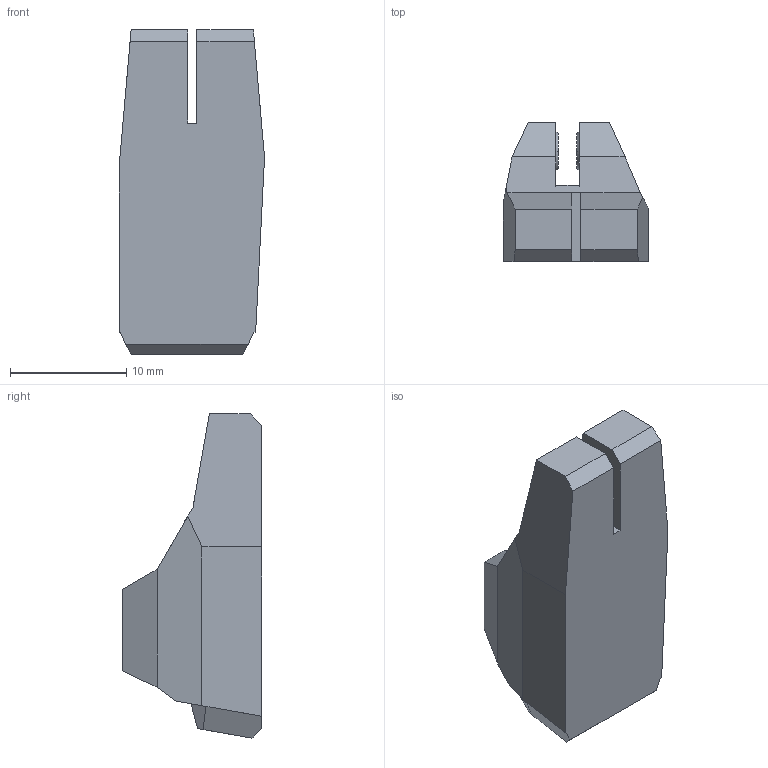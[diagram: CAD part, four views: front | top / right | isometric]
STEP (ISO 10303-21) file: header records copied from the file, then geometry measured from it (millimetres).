
FILE_DESCRIPTION (( 'STEP AP203' ), '1' );
FILE_NAME ('shoe_L.step', '2023-08-15T08:05:45', ( '' ), ( '' ), 'SwSTEP 2.0', 'SolidWorks 2020', '' );
FILE_SCHEMA (( 'CONFIG_CONTROL_DESIGN' ));
Length unit declared in the file: millimetre
Products named in the file (1): shoe_L
Bounding box: 12.46 x 12 x 27.85 mm (x, y, z)
Volume: 2335.9 mm3; surface area: 1396.5 mm2
Topology: 1 solids, 1 shells, 47 faces, 122 edges, 79 vertices
Faces by surface type: plane 43, cone 4
Entity records: 1485 total; most frequent: CARTESIAN_POINT 249, ORIENTED_EDGE 244, DIRECTION 226, EDGE_CURVE 122, VECTOR 114, LINE 114, VERTEX_POINT 79, AXIS2_PLACEMENT_3D 56
